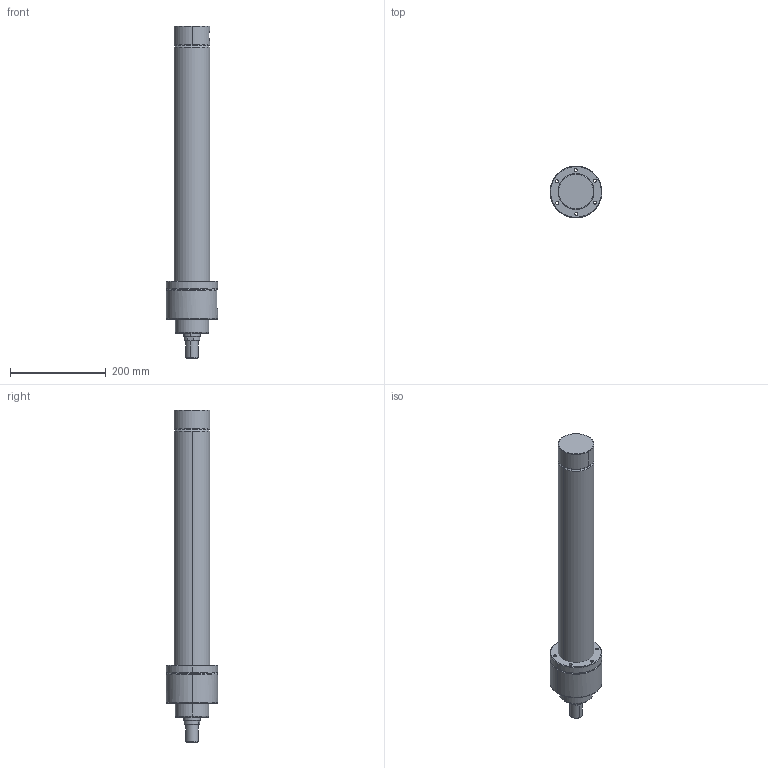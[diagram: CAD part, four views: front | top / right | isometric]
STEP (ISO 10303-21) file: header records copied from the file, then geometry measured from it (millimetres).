
FILE_DESCRIPTION (( 'STEP AP214' ), '1' );
FILE_NAME ('63-35-450-WEB.STEP', '2021-01-13T12:23:19', ( 'cagdas' ), ( '' ), 'SwSTEP 2.0', 'SolidWorks 2021', '' );
FILE_SCHEMA (( 'AUTOMOTIVE_DESIGN' ));
Length unit declared in the file: millimetre
Products named in the file (6): TYAK_63_75; 63_36_CETOP_烰_KAPAK; 35_K_MIL_WEB; 63-35-450-WEB; 63x75_BORU_WEB; 63_Gerdirme _Flansý
Assembly tree (5 placements, depth 2):
  63-35-450-WEB
    63x75_BORU_WEB
    TYAK_63_75
    63_36_CETOP_烰_KAPAK
    63_Gerdirme _Flansý
    35_K_MIL_WEB
Bounding box: 107.99 x 107.99 x 694 mm (x, y, z)
Volume: 1668951.7 mm3; surface area: 364212.7 mm2
Topology: 5 solids, 5 shells, 377 faces, 925 edges, 590 vertices
Faces by surface type: plane 120, cylinder 102, bspline 87, cone 64, torus 4
Entity records: 17240 total; most frequent: CARTESIAN_POINT 8406, ORIENTED_EDGE 1850, DIRECTION 1528, EDGE_CURVE 925, VERTEX_POINT 590, AXIS2_PLACEMENT_3D 575, EDGE_LOOP 443, LINE 378
